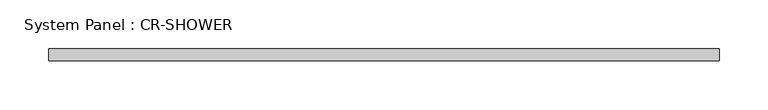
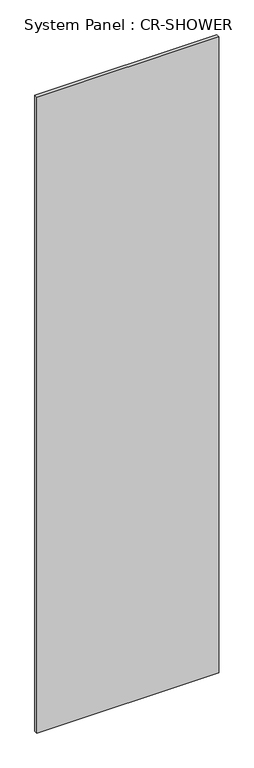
"""IFC4 building model written with IfcOpenShell, lengths in millimetres: plate geometry, System Panel : CR-SHOWER."""

from ifc_helpers import new_model, si_unit, origin, origin_with_axes, place, context, project, spatial, polyline, outline, extrude, source, transform, mapped, element, save


def system_panel_cr_shower_d400fda2(model_context):
    return source(origin(), model_context, "Body", "SweptSolid", [
        extrude(outline(polyline([(345.0, -12.45), (-345.0, -12.45), (-345.0, 0.05), (345.0, 0.05), (345.0, -12.45)])), origin_with_axes(), (0.0, 0.0, 1.0), 2550.0),
    ])


if __name__ == "__main__":
    model = new_model("IFC4")
    model_context = context("Model", 3, world=origin())
    ifc_project = project(units=[si_unit("LENGTHUNIT", "METRE", prefix="MILLI")], contexts=[model_context])
    site = spatial("IfcSite", under=ifc_project)
    building = spatial("IfcBuilding", under=site)
    placement = place(None, origin())
    system_panel_cr_shower_shape = system_panel_cr_shower_d400fda2(model_context)
    element("IfcPlate", 1, ObjectType="System Panel : CR-SHOWER", at=placement, inside=building, context=model_context, shape_type="MappedRepresentation", body=[
        mapped(system_panel_cr_shower_shape, transform((0.0, 0.0, 0.0), x_axis=(1.0, 0.0, 0.0), y_axis=(0.0, 1.0, 0.0), z_axis=(0.0, 0.0, 1.0))),
    ])
    save(model, "model.ifc")
